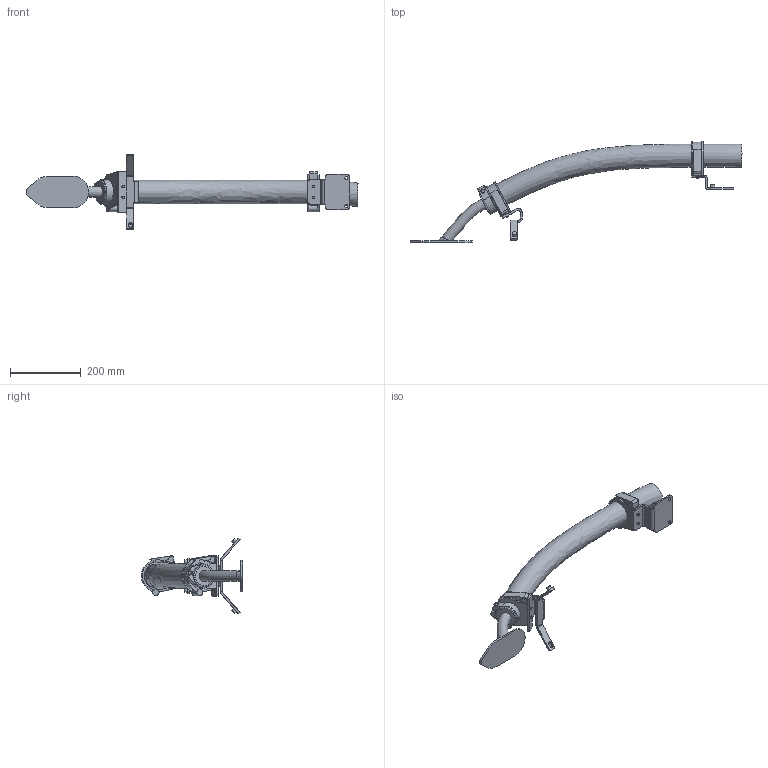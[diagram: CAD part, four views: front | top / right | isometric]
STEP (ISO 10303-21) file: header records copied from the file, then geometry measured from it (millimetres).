
FILE_DESCRIPTION (( 'STEP AP214' ), '1' );
FILE_NAME ('IRB7720-MH3_All-290_OC_00_LINK04_CABLE.step', '2026-01-28T13:12:27', ( '' ), ( '' ), 'SwSTEP 2.0', 'SolidWorks 2024', '' );
FILE_SCHEMA (( 'AUTOMOTIVE_DESIGN' ));
Length unit declared in the file: millimetre
Products named in the file (1): IRB7720-MH3_All-290_OC_00_LINK04_CABLE
Bounding box: 938 x 286.45 x 214.13 mm (x, y, z)
Volume: 3160854.2 mm3; surface area: 305217.2 mm2
Topology: 1 solids, 1 shells, 282 faces, 748 edges, 482 vertices
Faces by surface type: plane 196, cylinder 76, bspline 5, cone 5
Full cylindrical faces by diameter (mm): 6 x1, 7 x4, 9 x2, 10 x1, 13 x4, 19 x2, 62.2 x1, 65 x1, 66 x1
Entity records: 24764 total; most frequent: CARTESIAN_POINT 14770, DIRECTION 1417, ORIENTED_EDGE 1402, EDGE_CURVE 701, LINE 501, VECTOR 501, VERTEX_POINT 462, AXIS2_PLACEMENT_3D 458
